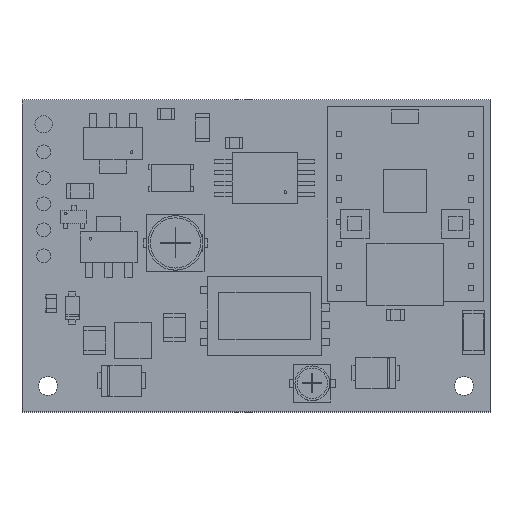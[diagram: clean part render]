
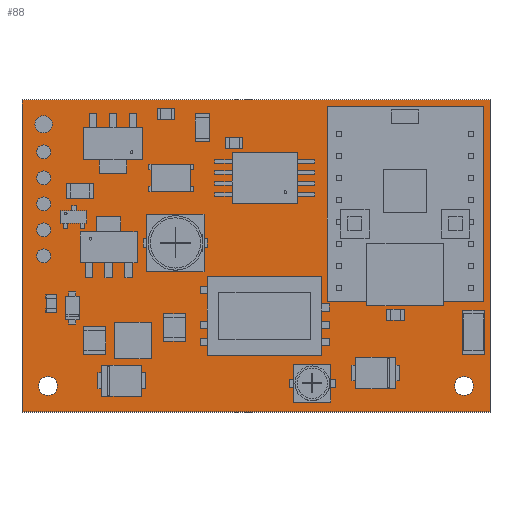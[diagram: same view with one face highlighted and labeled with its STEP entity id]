
A CAD part, top view. The second image highlights one B-rep face of the part: STEP entity #88.
In plain terms, the highlighted planar face has unit normal (0, 0, 1).
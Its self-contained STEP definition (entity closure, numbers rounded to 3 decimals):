
#24 = VERTEX_POINT('',#25);
#25 = CARTESIAN_POINT('',(0.,0.,0.));
#40 = VERTEX_POINT('',#41);
#41 = CARTESIAN_POINT('',(0.,36.,0.));
#47 = EDGE_CURVE('',#24,#40,#48,.T.);
#48 = LINE('',#49,#50);
#49 = CARTESIAN_POINT('',(0.,0.,0.));
#50 = VECTOR('',#51,1.);
#51 = DIRECTION('',(-0.,1.,0.));
#70 = EDGE_CURVE('',#24,#71,#73,.T.);
#71 = VERTEX_POINT('',#72);
#72 = CARTESIAN_POINT('',(54.,0.,0.));
#73 = LINE('',#74,#75);
#74 = CARTESIAN_POINT('',(0.,0.,0.));
#75 = VECTOR('',#76,1.);
#76 = DIRECTION('',(1.,0.,-0.));
#88 = ADVANCED_FACE('',(#89,#107,#118,#129,#140,#151,#162,#173,#184,#195
    ,#206,#217,#228,#239,#250,#261,#272,#283,#294,#305,#316,#327,#338,
    #349,#360,#371),#382,.T.);
#89 = FACE_BOUND('',#90,.T.);
#90 = EDGE_LOOP('',(#91,#92,#93,#101));
#91 = ORIENTED_EDGE('',*,*,#47,.F.);
#92 = ORIENTED_EDGE('',*,*,#70,.T.);
#93 = ORIENTED_EDGE('',*,*,#94,.T.);
#94 = EDGE_CURVE('',#71,#95,#97,.T.);
#95 = VERTEX_POINT('',#96);
#96 = CARTESIAN_POINT('',(54.,36.,0.));
#97 = LINE('',#98,#99);
#98 = CARTESIAN_POINT('',(54.,0.,0.));
#99 = VECTOR('',#100,1.);
#100 = DIRECTION('',(-0.,1.,0.));
#101 = ORIENTED_EDGE('',*,*,#102,.F.);
#102 = EDGE_CURVE('',#40,#95,#103,.T.);
#103 = LINE('',#104,#105);
#104 = CARTESIAN_POINT('',(0.,36.,0.));
#105 = VECTOR('',#106,1.);
#106 = DIRECTION('',(1.,0.,-0.));
#107 = FACE_BOUND('',#108,.T.);
#108 = EDGE_LOOP('',(#109));
#109 = ORIENTED_EDGE('',*,*,#110,.F.);
#110 = EDGE_CURVE('',#111,#111,#113,.T.);
#111 = VERTEX_POINT('',#112);
#112 = CARTESIAN_POINT('',(4.1,3.,0.));
#113 = CIRCLE('',#114,1.1);
#114 = AXIS2_PLACEMENT_3D('',#115,#116,#117);
#115 = CARTESIAN_POINT('',(3.,3.,0.));
#116 = DIRECTION('',(0.,0.,1.));
#117 = DIRECTION('',(1.,0.,-0.));
#118 = FACE_BOUND('',#119,.T.);
#119 = EDGE_LOOP('',(#120));
#120 = ORIENTED_EDGE('',*,*,#121,.F.);
#121 = EDGE_CURVE('',#122,#122,#124,.T.);
#122 = VERTEX_POINT('',#123);
#123 = CARTESIAN_POINT('',(52.1,3.,0.));
#124 = CIRCLE('',#125,1.1);
#125 = AXIS2_PLACEMENT_3D('',#126,#127,#128);
#126 = CARTESIAN_POINT('',(51.,3.,0.));
#127 = DIRECTION('',(0.,0.,1.));
#128 = DIRECTION('',(1.,0.,-0.));
#129 = FACE_BOUND('',#130,.T.);
#130 = EDGE_LOOP('',(#131));
#131 = ORIENTED_EDGE('',*,*,#132,.F.);
#132 = EDGE_CURVE('',#133,#133,#135,.T.);
#133 = VERTEX_POINT('',#134);
#134 = CARTESIAN_POINT('',(52.6,7.93,0.));
#135 = CIRCLE('',#136,0.5);
#136 = AXIS2_PLACEMENT_3D('',#137,#138,#139);
#137 = CARTESIAN_POINT('',(52.1,7.93,0.));
#138 = DIRECTION('',(0.,0.,1.));
#139 = DIRECTION('',(1.,0.,-0.));
#140 = FACE_BOUND('',#141,.T.);
#141 = EDGE_LOOP('',(#142));
#142 = ORIENTED_EDGE('',*,*,#143,.F.);
#143 = EDGE_CURVE('',#144,#144,#146,.T.);
#144 = VERTEX_POINT('',#145);
#145 = CARTESIAN_POINT('',(37.08,14.299,0.));
#146 = CIRCLE('',#147,0.5);
#147 = AXIS2_PLACEMENT_3D('',#148,#149,#150);
#148 = CARTESIAN_POINT('',(36.58,14.299,0.));
#149 = DIRECTION('',(0.,0.,1.));
#150 = DIRECTION('',(1.,0.,-0.));
#151 = FACE_BOUND('',#152,.T.);
#152 = EDGE_LOOP('',(#153));
#153 = ORIENTED_EDGE('',*,*,#154,.F.);
#154 = EDGE_CURVE('',#155,#155,#157,.T.);
#155 = VERTEX_POINT('',#156);
#156 = CARTESIAN_POINT('',(37.08,16.839,0.));
#157 = CIRCLE('',#158,0.5);
#158 = AXIS2_PLACEMENT_3D('',#159,#160,#161);
#159 = CARTESIAN_POINT('',(36.58,16.839,0.));
#160 = DIRECTION('',(0.,0.,1.));
#161 = DIRECTION('',(1.,0.,-0.));
#162 = FACE_BOUND('',#163,.T.);
#163 = EDGE_LOOP('',(#164));
#164 = ORIENTED_EDGE('',*,*,#165,.F.);
#165 = EDGE_CURVE('',#166,#166,#168,.T.);
#166 = VERTEX_POINT('',#167);
#167 = CARTESIAN_POINT('',(52.6,10.47,0.));
#168 = CIRCLE('',#169,0.5);
#169 = AXIS2_PLACEMENT_3D('',#170,#171,#172);
#170 = CARTESIAN_POINT('',(52.1,10.47,0.));
#171 = DIRECTION('',(0.,0.,1.));
#172 = DIRECTION('',(1.,0.,-0.));
#173 = FACE_BOUND('',#174,.T.);
#174 = EDGE_LOOP('',(#175));
#175 = ORIENTED_EDGE('',*,*,#176,.F.);
#176 = EDGE_CURVE('',#177,#177,#179,.T.);
#177 = VERTEX_POINT('',#178);
#178 = CARTESIAN_POINT('',(52.32,14.299,0.));
#179 = CIRCLE('',#180,0.5);
#180 = AXIS2_PLACEMENT_3D('',#181,#182,#183);
#181 = CARTESIAN_POINT('',(51.82,14.299,0.));
#182 = DIRECTION('',(0.,0.,1.));
#183 = DIRECTION('',(1.,0.,-0.));
#184 = FACE_BOUND('',#185,.T.);
#185 = EDGE_LOOP('',(#186));
#186 = ORIENTED_EDGE('',*,*,#187,.F.);
#187 = EDGE_CURVE('',#188,#188,#190,.T.);
#188 = VERTEX_POINT('',#189);
#189 = CARTESIAN_POINT('',(52.32,16.839,0.));
#190 = CIRCLE('',#191,0.5);
#191 = AXIS2_PLACEMENT_3D('',#192,#193,#194);
#192 = CARTESIAN_POINT('',(51.82,16.839,0.));
#193 = DIRECTION('',(0.,0.,1.));
#194 = DIRECTION('',(1.,0.,-0.));
#195 = FACE_BOUND('',#196,.T.);
#196 = EDGE_LOOP('',(#197));
#197 = ORIENTED_EDGE('',*,*,#198,.F.);
#198 = EDGE_CURVE('',#199,#199,#201,.T.);
#199 = VERTEX_POINT('',#200);
#200 = CARTESIAN_POINT('',(3.15,18.,0.));
#201 = CIRCLE('',#202,0.65);
#202 = AXIS2_PLACEMENT_3D('',#203,#204,#205);
#203 = CARTESIAN_POINT('',(2.5,18.,0.));
#204 = DIRECTION('',(0.,0.,1.));
#205 = DIRECTION('',(1.,0.,-0.));
#206 = FACE_BOUND('',#207,.T.);
#207 = EDGE_LOOP('',(#208));
#208 = ORIENTED_EDGE('',*,*,#209,.F.);
#209 = EDGE_CURVE('',#210,#210,#212,.T.);
#210 = VERTEX_POINT('',#211);
#211 = CARTESIAN_POINT('',(3.15,21.,0.));
#212 = CIRCLE('',#213,0.65);
#213 = AXIS2_PLACEMENT_3D('',#214,#215,#216);
#214 = CARTESIAN_POINT('',(2.5,21.,0.));
#215 = DIRECTION('',(0.,0.,1.));
#216 = DIRECTION('',(1.,0.,-0.));
#217 = FACE_BOUND('',#218,.T.);
#218 = EDGE_LOOP('',(#219));
#219 = ORIENTED_EDGE('',*,*,#220,.F.);
#220 = EDGE_CURVE('',#221,#221,#223,.T.);
#221 = VERTEX_POINT('',#222);
#222 = CARTESIAN_POINT('',(3.15,24.,0.));
#223 = CIRCLE('',#224,0.65);
#224 = AXIS2_PLACEMENT_3D('',#225,#226,#227);
#225 = CARTESIAN_POINT('',(2.5,24.,0.));
#226 = DIRECTION('',(0.,0.,1.));
#227 = DIRECTION('',(1.,0.,-0.));
#228 = FACE_BOUND('',#229,.T.);
#229 = EDGE_LOOP('',(#230));
#230 = ORIENTED_EDGE('',*,*,#231,.F.);
#231 = EDGE_CURVE('',#232,#232,#234,.T.);
#232 = VERTEX_POINT('',#233);
#233 = CARTESIAN_POINT('',(3.15,27.,0.));
#234 = CIRCLE('',#235,0.65);
#235 = AXIS2_PLACEMENT_3D('',#236,#237,#238);
#236 = CARTESIAN_POINT('',(2.5,27.,0.));
#237 = DIRECTION('',(0.,0.,1.));
#238 = DIRECTION('',(1.,0.,-0.));
#239 = FACE_BOUND('',#240,.T.);
#240 = EDGE_LOOP('',(#241));
#241 = ORIENTED_EDGE('',*,*,#242,.F.);
#242 = EDGE_CURVE('',#243,#243,#245,.T.);
#243 = VERTEX_POINT('',#244);
#244 = CARTESIAN_POINT('',(3.15,30.,0.));
#245 = CIRCLE('',#246,0.65);
#246 = AXIS2_PLACEMENT_3D('',#247,#248,#249);
#247 = CARTESIAN_POINT('',(2.5,30.,0.));
#248 = DIRECTION('',(0.,0.,1.));
#249 = DIRECTION('',(1.,0.,-0.));
#250 = FACE_BOUND('',#251,.T.);
#251 = EDGE_LOOP('',(#252));
#252 = ORIENTED_EDGE('',*,*,#253,.F.);
#253 = EDGE_CURVE('',#254,#254,#256,.T.);
#254 = VERTEX_POINT('',#255);
#255 = CARTESIAN_POINT('',(37.08,19.379,0.));
#256 = CIRCLE('',#257,0.5);
#257 = AXIS2_PLACEMENT_3D('',#258,#259,#260);
#258 = CARTESIAN_POINT('',(36.58,19.379,0.));
#259 = DIRECTION('',(0.,0.,1.));
#260 = DIRECTION('',(1.,0.,-0.));
#261 = FACE_BOUND('',#262,.T.);
#262 = EDGE_LOOP('',(#263));
#263 = ORIENTED_EDGE('',*,*,#264,.F.);
#264 = EDGE_CURVE('',#265,#265,#267,.T.);
#265 = VERTEX_POINT('',#266);
#266 = CARTESIAN_POINT('',(37.08,21.919,0.));
#267 = CIRCLE('',#268,0.5);
#268 = AXIS2_PLACEMENT_3D('',#269,#270,#271);
#269 = CARTESIAN_POINT('',(36.58,21.919,0.));
#270 = DIRECTION('',(0.,0.,1.));
#271 = DIRECTION('',(1.,0.,-0.));
#272 = FACE_BOUND('',#273,.T.);
#273 = EDGE_LOOP('',(#274));
#274 = ORIENTED_EDGE('',*,*,#275,.F.);
#275 = EDGE_CURVE('',#276,#276,#278,.T.);
#276 = VERTEX_POINT('',#277);
#277 = CARTESIAN_POINT('',(37.08,24.459,0.));
#278 = CIRCLE('',#279,0.5);
#279 = AXIS2_PLACEMENT_3D('',#280,#281,#282);
#280 = CARTESIAN_POINT('',(36.58,24.459,0.));
#281 = DIRECTION('',(0.,0.,1.));
#282 = DIRECTION('',(1.,0.,-0.));
#283 = FACE_BOUND('',#284,.T.);
#284 = EDGE_LOOP('',(#285));
#285 = ORIENTED_EDGE('',*,*,#286,.F.);
#286 = EDGE_CURVE('',#287,#287,#289,.T.);
#287 = VERTEX_POINT('',#288);
#288 = CARTESIAN_POINT('',(52.32,19.379,0.));
#289 = CIRCLE('',#290,0.5);
#290 = AXIS2_PLACEMENT_3D('',#291,#292,#293);
#291 = CARTESIAN_POINT('',(51.82,19.379,0.));
#292 = DIRECTION('',(0.,0.,1.));
#293 = DIRECTION('',(1.,0.,-0.));
#294 = FACE_BOUND('',#295,.T.);
#295 = EDGE_LOOP('',(#296));
#296 = ORIENTED_EDGE('',*,*,#297,.F.);
#297 = EDGE_CURVE('',#298,#298,#300,.T.);
#298 = VERTEX_POINT('',#299);
#299 = CARTESIAN_POINT('',(52.32,21.919,0.));
#300 = CIRCLE('',#301,0.5);
#301 = AXIS2_PLACEMENT_3D('',#302,#303,#304);
#302 = CARTESIAN_POINT('',(51.82,21.919,0.));
#303 = DIRECTION('',(0.,0.,1.));
#304 = DIRECTION('',(1.,0.,-0.));
#305 = FACE_BOUND('',#306,.T.);
#306 = EDGE_LOOP('',(#307));
#307 = ORIENTED_EDGE('',*,*,#308,.F.);
#308 = EDGE_CURVE('',#309,#309,#311,.T.);
#309 = VERTEX_POINT('',#310);
#310 = CARTESIAN_POINT('',(52.32,24.459,0.));
#311 = CIRCLE('',#312,0.5);
#312 = AXIS2_PLACEMENT_3D('',#313,#314,#315);
#313 = CARTESIAN_POINT('',(51.82,24.459,0.));
#314 = DIRECTION('',(0.,0.,1.));
#315 = DIRECTION('',(1.,0.,-0.));
#316 = FACE_BOUND('',#317,.T.);
#317 = EDGE_LOOP('',(#318));
#318 = ORIENTED_EDGE('',*,*,#319,.F.);
#319 = EDGE_CURVE('',#320,#320,#322,.T.);
#320 = VERTEX_POINT('',#321);
#321 = CARTESIAN_POINT('',(37.08,26.999,0.));
#322 = CIRCLE('',#323,0.5);
#323 = AXIS2_PLACEMENT_3D('',#324,#325,#326);
#324 = CARTESIAN_POINT('',(36.58,26.999,0.));
#325 = DIRECTION('',(0.,0.,1.));
#326 = DIRECTION('',(1.,0.,-0.));
#327 = FACE_BOUND('',#328,.T.);
#328 = EDGE_LOOP('',(#329));
#329 = ORIENTED_EDGE('',*,*,#330,.F.);
#330 = EDGE_CURVE('',#331,#331,#333,.T.);
#331 = VERTEX_POINT('',#332);
#332 = CARTESIAN_POINT('',(37.08,29.539,0.));
#333 = CIRCLE('',#334,0.5);
#334 = AXIS2_PLACEMENT_3D('',#335,#336,#337);
#335 = CARTESIAN_POINT('',(36.58,29.539,0.));
#336 = DIRECTION('',(0.,0.,1.));
#337 = DIRECTION('',(1.,0.,-0.));
#338 = FACE_BOUND('',#339,.T.);
#339 = EDGE_LOOP('',(#340));
#340 = ORIENTED_EDGE('',*,*,#341,.F.);
#341 = EDGE_CURVE('',#342,#342,#344,.T.);
#342 = VERTEX_POINT('',#343);
#343 = CARTESIAN_POINT('',(37.08,32.079,0.));
#344 = CIRCLE('',#345,0.5);
#345 = AXIS2_PLACEMENT_3D('',#346,#347,#348);
#346 = CARTESIAN_POINT('',(36.58,32.079,0.));
#347 = DIRECTION('',(0.,0.,1.));
#348 = DIRECTION('',(1.,0.,-0.));
#349 = FACE_BOUND('',#350,.T.);
#350 = EDGE_LOOP('',(#351));
#351 = ORIENTED_EDGE('',*,*,#352,.F.);
#352 = EDGE_CURVE('',#353,#353,#355,.T.);
#353 = VERTEX_POINT('',#354);
#354 = CARTESIAN_POINT('',(52.32,26.999,0.));
#355 = CIRCLE('',#356,0.5);
#356 = AXIS2_PLACEMENT_3D('',#357,#358,#359);
#357 = CARTESIAN_POINT('',(51.82,26.999,0.));
#358 = DIRECTION('',(0.,0.,1.));
#359 = DIRECTION('',(1.,0.,-0.));
#360 = FACE_BOUND('',#361,.T.);
#361 = EDGE_LOOP('',(#362));
#362 = ORIENTED_EDGE('',*,*,#363,.F.);
#363 = EDGE_CURVE('',#364,#364,#366,.T.);
#364 = VERTEX_POINT('',#365);
#365 = CARTESIAN_POINT('',(52.32,29.539,0.));
#366 = CIRCLE('',#367,0.5);
#367 = AXIS2_PLACEMENT_3D('',#368,#369,#370);
#368 = CARTESIAN_POINT('',(51.82,29.539,0.));
#369 = DIRECTION('',(0.,0.,1.));
#370 = DIRECTION('',(1.,0.,-0.));
#371 = FACE_BOUND('',#372,.T.);
#372 = EDGE_LOOP('',(#373));
#373 = ORIENTED_EDGE('',*,*,#374,.F.);
#374 = EDGE_CURVE('',#375,#375,#377,.T.);
#375 = VERTEX_POINT('',#376);
#376 = CARTESIAN_POINT('',(52.32,32.079,0.));
#377 = CIRCLE('',#378,0.5);
#378 = AXIS2_PLACEMENT_3D('',#379,#380,#381);
#379 = CARTESIAN_POINT('',(51.82,32.079,0.));
#380 = DIRECTION('',(0.,0.,1.));
#381 = DIRECTION('',(1.,0.,-0.));
#382 = PLANE('',#383);
#383 = AXIS2_PLACEMENT_3D('',#384,#385,#386);
#384 = CARTESIAN_POINT('',(0.,0.,0.));
#385 = DIRECTION('',(0.,0.,1.));
#386 = DIRECTION('',(1.,0.,-0.));
